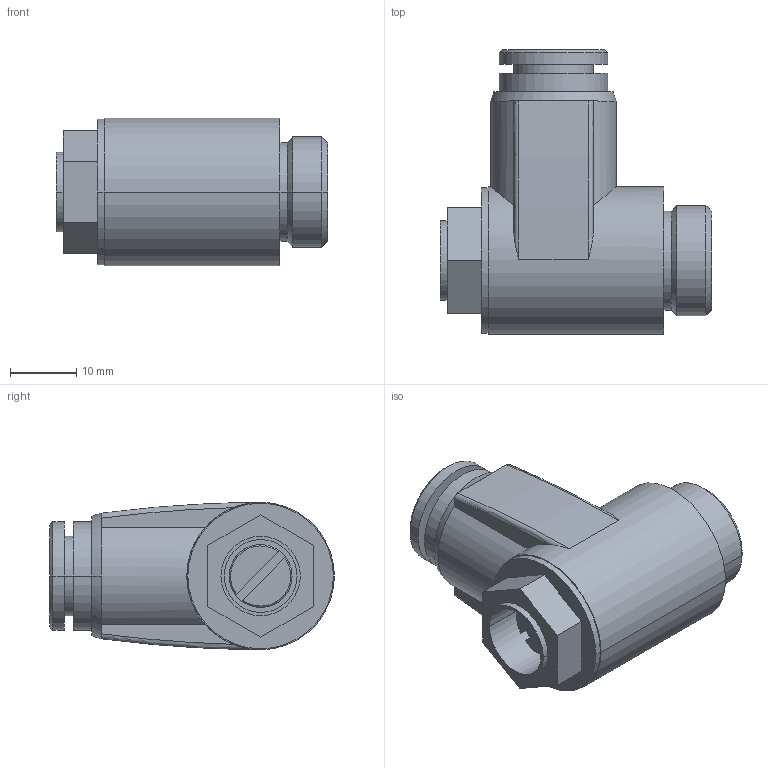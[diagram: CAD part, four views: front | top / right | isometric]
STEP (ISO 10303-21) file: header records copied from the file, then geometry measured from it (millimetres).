
FILE_DESCRIPTION((''),'2;1');
FILE_NAME('R412010575','2015-03-19T',('mla1hc'),(''),'PRO/ENGINEER BY PARAMETRIC TECHNOLOGY CORPORATION, 2011490','PRO/ENGINEER BY PARAMETRIC TECHNOLOGY CORPORATION, 2011490','');
FILE_SCHEMA(('AUTOMOTIVE_DESIGN_CC2 { 1 2 10303 214 -1 1 5 2 }'));
Length unit declared in the file: millimetre
Products named in the file (1): R412010575
Bounding box: 41 x 43.05 x 22.3 mm (x, y, z)
Volume: 16343.5 mm3; surface area: 6754.8 mm2
Topology: 1 solids, 1 shells, 76 faces, 173 edges, 110 vertices
Faces by surface type: plane 31, cylinder 29, cone 12, torus 4
Entity records: 2650 total; most frequent: CARTESIAN_POINT 875, DIRECTION 387, ORIENTED_EDGE 346, EDGE_CURVE 173, AXIS2_PLACEMENT_3D 156, VERTEX_POINT 110, EDGE_LOOP 87, CIRCLE 80
